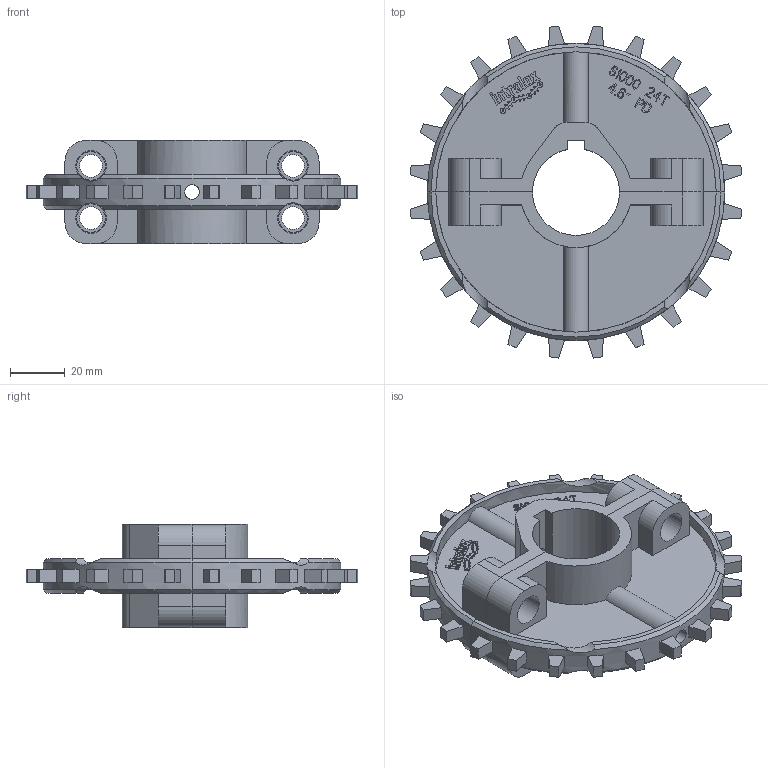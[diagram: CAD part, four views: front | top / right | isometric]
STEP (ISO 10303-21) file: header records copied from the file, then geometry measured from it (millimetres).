
FILE_DESCRIPTION((''),'2;1');
FILE_NAME('S1000_SPLIT_4-6X1-25_PILOT_ASM','2012-01-09T',('rklein'),('INTRALOX'),'PRO/ENGINEER BY PARAMETRIC TECHNOLOGY CORPORATION, 2009460','PRO/ENGINEER BY PARAMETRIC TECHNOLOGY CORPORATION, 2009460','');
FILE_SCHEMA(('CONFIG_CONTROL_DESIGN'));
Length unit declared in the file: inch
Products named in the file (3): S1000_SPLIT_4-6X1-25_PILOT__AF0; S1000_SPLIT_4-6X1-25_PILOT__AF1; S1000_SPLIT_4-6X1-25_PILOT_ASM
Assembly tree (2 placements, depth 2):
  S1000_SPLIT_4-6X1-25_PILOT_ASM
    S1000_SPLIT_4-6X1-25_PILOT__AF0
    S1000_SPLIT_4-6X1-25_PILOT__AF1
Bounding box: 121.09 x 121.09 x 37.59 mm (x, y, z)
Volume: 86303.7 mm3; surface area: 48095.7 mm2
Topology: 2 solids, 2 shells, 1154 faces, 3201 edges, 2134 vertices
Faces by surface type: plane 859, cylinder 283, cone 12
Entity records: 37533 total; most frequent: CARTESIAN_POINT 7284, ORIENTED_EDGE 6402, DIRECTION 6091, EDGE_CURVE 3201, VECTOR 2533, LINE 2533, VERTEX_POINT 2134, AXIS2_PLACEMENT_3D 1779
